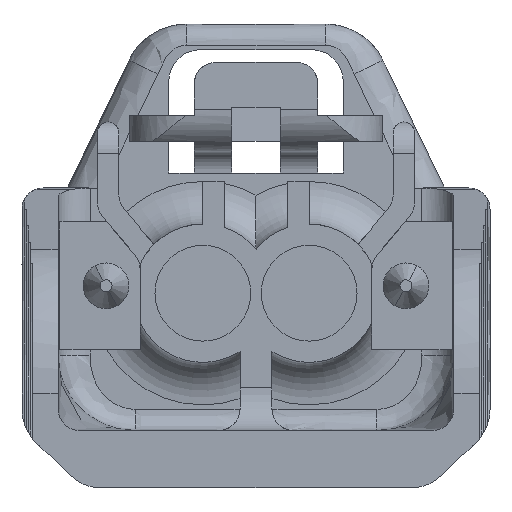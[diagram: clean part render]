
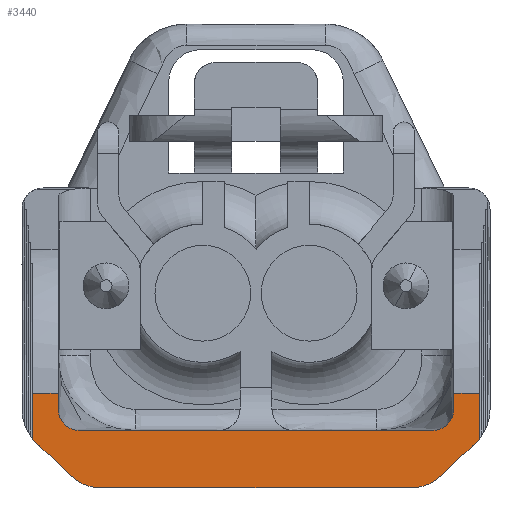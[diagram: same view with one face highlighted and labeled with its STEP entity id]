
A CAD part, left-side view. The second image highlights one B-rep face of the part: STEP entity #3440.
In plain terms, the highlighted planar face has unit normal (-1, 0, 0).
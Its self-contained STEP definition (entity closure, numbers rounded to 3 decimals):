
#156=CARTESIAN_POINT('Vertex',(-28.,12.696,-6.4)) ;
#159=CARTESIAN_POINT('Axis2P3D Location',(-28.,11.3,-4.7)) ;
#163=CARTESIAN_POINT('Vertex',(-28.,13.,-6.096)) ;
#263=CARTESIAN_POINT('Axis2P3D Location',(-28.,-6.3,-4.7)) ;
#267=CARTESIAN_POINT('Vertex',(-28.,-7.696,-6.4)) ;
#269=CARTESIAN_POINT('Vertex',(-28.,-8.,-6.096)) ;
#410=CARTESIAN_POINT('Vertex',(-28.,-6.8,-3.941)) ;
#413=CARTESIAN_POINT('Line Origine',(-28.,0.,-3.941)) ;
#417=CARTESIAN_POINT('Vertex',(-28.,-8.,-3.941)) ;
#448=CARTESIAN_POINT('Line Origine',(-28.,0.,-3.941)) ;
#452=CARTESIAN_POINT('Vertex',(-28.,11.8,-3.941)) ;
#454=CARTESIAN_POINT('Vertex',(-28.,13.,-3.941)) ;
#2026=CARTESIAN_POINT('Line Origine',(-28.,-7.701,-6.4)) ;
#2030=CARTESIAN_POINT('Vertex',(-28.,-7.705,-6.4)) ;
#2063=CARTESIAN_POINT('Vertex',(-28.,12.705,-6.4)) ;
#2066=CARTESIAN_POINT('Line Origine',(-28.,12.701,-6.4)) ;
#2405=CARTESIAN_POINT('Line Origine',(-28.,-8.,-5.019)) ;
#2569=CARTESIAN_POINT('Line Origine',(-28.,13.,-5.019)) ;
#3288=CARTESIAN_POINT('Vertex',(-28.,11.179,-7.85)) ;
#3291=CARTESIAN_POINT('Line Origine',(-28.,11.942,-7.125)) ;
#3313=CARTESIAN_POINT('Axis2P3D Location',(-28.,9.801,-6.4)) ;
#3317=CARTESIAN_POINT('Vertex',(-28.,9.801,-8.4)) ;
#3350=CARTESIAN_POINT('Vertex',(-28.,-6.179,-7.85)) ;
#3358=CARTESIAN_POINT('Line Origine',(-28.,-6.942,-7.125)) ;
#3370=CARTESIAN_POINT('Axis2P3D Location',(-28.,0.,-6.9)) ;
#3375=CARTESIAN_POINT('Line Origine',(-28.,-6.8,-4.32)) ;
#3379=CARTESIAN_POINT('Vertex',(-28.,-6.8,-4.7)) ;
#3382=CARTESIAN_POINT('Axis2P3D Location',(-28.,-5.8,-4.7)) ;
#3386=CARTESIAN_POINT('Vertex',(-28.,-5.8,-5.7)) ;
#3389=CARTESIAN_POINT('Line Origine',(-28.,2.5,-5.7)) ;
#3393=CARTESIAN_POINT('Vertex',(-28.,10.8,-5.7)) ;
#3396=CARTESIAN_POINT('Axis2P3D Location',(-28.,10.8,-4.7)) ;
#3400=CARTESIAN_POINT('Vertex',(-28.,11.8,-4.7)) ;
#3403=CARTESIAN_POINT('Line Origine',(-28.,11.8,-4.32)) ;
#3408=CARTESIAN_POINT('Line Origine',(-28.,2.5,-8.4)) ;
#3412=CARTESIAN_POINT('Vertex',(-28.,-4.801,-8.4)) ;
#3415=CARTESIAN_POINT('Axis2P3D Location',(-28.,-4.801,-6.4)) ;
#160=DIRECTION('Axis2P3D Direction',(1.,0.,0.)) ;
#264=DIRECTION('Axis2P3D Direction',(1.,0.,0.)) ;
#414=DIRECTION('Vector Direction',(0.,1.,0.)) ;
#449=DIRECTION('Vector Direction',(0.,1.,0.)) ;
#2027=DIRECTION('Vector Direction',(0.,1.,0.)) ;
#2067=DIRECTION('Vector Direction',(0.,1.,0.)) ;
#2406=DIRECTION('Vector Direction',(0.,0.,-1.)) ;
#2570=DIRECTION('Vector Direction',(0.,0.,-1.)) ;
#3292=DIRECTION('Vector Direction',(0.,0.725,0.689)) ;
#3314=DIRECTION('Axis2P3D Direction',(-1.,0.,0.)) ;
#3359=DIRECTION('Vector Direction',(0.,-0.725,0.689)) ;
#3371=DIRECTION('Axis2P3D Direction',(-1.,0.,-0.)) ;
#3372=DIRECTION('Axis2P3D XDirection',(-0.,0.,1.)) ;
#3376=DIRECTION('Vector Direction',(0.,0.,-1.)) ;
#3383=DIRECTION('Axis2P3D Direction',(-1.,0.,-0.)) ;
#3390=DIRECTION('Vector Direction',(0.,1.,0.)) ;
#3397=DIRECTION('Axis2P3D Direction',(-1.,0.,-0.)) ;
#3404=DIRECTION('Vector Direction',(0.,0.,-1.)) ;
#3409=DIRECTION('Vector Direction',(0.,1.,0.)) ;
#3416=DIRECTION('Axis2P3D Direction',(-1.,0.,-0.)) ;
#161=AXIS2_PLACEMENT_3D('Circle Axis2P3D',#159,#160,$) ;
#265=AXIS2_PLACEMENT_3D('Circle Axis2P3D',#263,#264,$) ;
#3315=AXIS2_PLACEMENT_3D('Circle Axis2P3D',#3313,#3314,$) ;
#3373=AXIS2_PLACEMENT_3D('Plane Axis2P3D',#3370,#3371,#3372) ;
#3384=AXIS2_PLACEMENT_3D('Circle Axis2P3D',#3382,#3383,$) ;
#3398=AXIS2_PLACEMENT_3D('Circle Axis2P3D',#3396,#3397,$) ;
#3417=AXIS2_PLACEMENT_3D('Circle Axis2P3D',#3415,#3416,$) ;
#3421=ORIENTED_EDGE('',*,*,#3362,.T.) ;
#3422=ORIENTED_EDGE('',*,*,#2032,.T.) ;
#3423=ORIENTED_EDGE('',*,*,#271,.T.) ;
#3424=ORIENTED_EDGE('',*,*,#2409,.F.) ;
#3425=ORIENTED_EDGE('',*,*,#419,.T.) ;
#3426=ORIENTED_EDGE('',*,*,#3381,.T.) ;
#3427=ORIENTED_EDGE('',*,*,#3388,.F.) ;
#3428=ORIENTED_EDGE('',*,*,#3395,.T.) ;
#3429=ORIENTED_EDGE('',*,*,#3402,.T.) ;
#3430=ORIENTED_EDGE('',*,*,#3407,.F.) ;
#3431=ORIENTED_EDGE('',*,*,#456,.T.) ;
#3432=ORIENTED_EDGE('',*,*,#2573,.T.) ;
#3433=ORIENTED_EDGE('',*,*,#165,.T.) ;
#3434=ORIENTED_EDGE('',*,*,#2070,.T.) ;
#3435=ORIENTED_EDGE('',*,*,#3295,.F.) ;
#3436=ORIENTED_EDGE('',*,*,#3319,.F.) ;
#3437=ORIENTED_EDGE('',*,*,#3414,.F.) ;
#3438=ORIENTED_EDGE('',*,*,#3419,.F.) ;
#415=VECTOR('Line Direction',#414,1.) ;
#450=VECTOR('Line Direction',#449,1.) ;
#2028=VECTOR('Line Direction',#2027,1.) ;
#2068=VECTOR('Line Direction',#2067,1.) ;
#2407=VECTOR('Line Direction',#2406,1.) ;
#2571=VECTOR('Line Direction',#2570,1.) ;
#3293=VECTOR('Line Direction',#3292,1.) ;
#3360=VECTOR('Line Direction',#3359,1.) ;
#3377=VECTOR('Line Direction',#3376,1.) ;
#3391=VECTOR('Line Direction',#3390,1.) ;
#3405=VECTOR('Line Direction',#3404,1.) ;
#3410=VECTOR('Line Direction',#3409,1.) ;
#3440=ADVANCED_FACE('\X2\FF8AFF9FFF70FF82\X0\ \X2\FF8EFF9EFF83FF9EFF68FF70\X0\',(#3439),#3374,.T.) ;
#162=CIRCLE('generated circle',#161,2.2) ;
#266=CIRCLE('generated circle',#265,2.2) ;
#3316=CIRCLE('generated circle',#3315,2.) ;
#3385=CIRCLE('generated circle',#3384,1.) ;
#3399=CIRCLE('generated circle',#3398,1.) ;
#3418=CIRCLE('generated circle',#3417,2.) ;
#165=EDGE_CURVE('',#164,#157,#162,.F.) ;
#271=EDGE_CURVE('',#268,#270,#266,.F.) ;
#419=EDGE_CURVE('',#418,#411,#416,.T.) ;
#456=EDGE_CURVE('',#453,#455,#451,.T.) ;
#2032=EDGE_CURVE('',#2031,#268,#2029,.T.) ;
#2070=EDGE_CURVE('',#157,#2064,#2069,.T.) ;
#2409=EDGE_CURVE('',#418,#270,#2408,.T.) ;
#2573=EDGE_CURVE('',#455,#164,#2572,.T.) ;
#3295=EDGE_CURVE('',#3289,#2064,#3294,.T.) ;
#3319=EDGE_CURVE('',#3318,#3289,#3316,.F.) ;
#3362=EDGE_CURVE('',#3351,#2031,#3361,.T.) ;
#3381=EDGE_CURVE('',#411,#3380,#3378,.T.) ;
#3388=EDGE_CURVE('',#3387,#3380,#3385,.T.) ;
#3395=EDGE_CURVE('',#3387,#3394,#3392,.T.) ;
#3402=EDGE_CURVE('',#3394,#3401,#3399,.F.) ;
#3407=EDGE_CURVE('',#453,#3401,#3406,.T.) ;
#3414=EDGE_CURVE('',#3413,#3318,#3411,.T.) ;
#3419=EDGE_CURVE('',#3351,#3413,#3418,.F.) ;
#3420=EDGE_LOOP('',(#3421,#3422,#3423,#3424,#3425,#3426,#3427,#3428,#3429,#3430,#3431,#3432,#3433,#3434,#3435,#3436,#3437,#3438)) ;
#3439=FACE_OUTER_BOUND('',#3420,.T.) ;
#416=LINE('Line',#413,#415) ;
#451=LINE('Line',#448,#450) ;
#2029=LINE('Line',#2026,#2028) ;
#2069=LINE('Line',#2066,#2068) ;
#2408=LINE('Line',#2405,#2407) ;
#2572=LINE('Line',#2569,#2571) ;
#3294=LINE('Line',#3291,#3293) ;
#3361=LINE('Line',#3358,#3360) ;
#3378=LINE('Line',#3375,#3377) ;
#3392=LINE('Line',#3389,#3391) ;
#3406=LINE('Line',#3403,#3405) ;
#3411=LINE('Line',#3408,#3410) ;
#3374=PLANE('',#3373) ;
#157=VERTEX_POINT('',#156) ;
#164=VERTEX_POINT('',#163) ;
#268=VERTEX_POINT('',#267) ;
#270=VERTEX_POINT('',#269) ;
#411=VERTEX_POINT('',#410) ;
#418=VERTEX_POINT('',#417) ;
#453=VERTEX_POINT('',#452) ;
#455=VERTEX_POINT('',#454) ;
#2031=VERTEX_POINT('',#2030) ;
#2064=VERTEX_POINT('',#2063) ;
#3289=VERTEX_POINT('',#3288) ;
#3318=VERTEX_POINT('',#3317) ;
#3351=VERTEX_POINT('',#3350) ;
#3380=VERTEX_POINT('',#3379) ;
#3387=VERTEX_POINT('',#3386) ;
#3394=VERTEX_POINT('',#3393) ;
#3401=VERTEX_POINT('',#3400) ;
#3413=VERTEX_POINT('',#3412) ;
